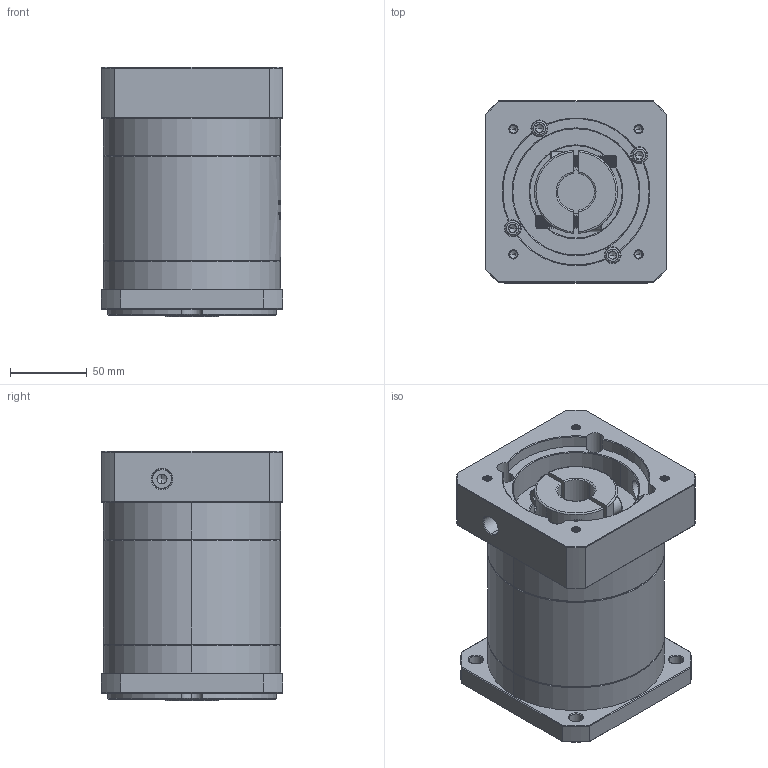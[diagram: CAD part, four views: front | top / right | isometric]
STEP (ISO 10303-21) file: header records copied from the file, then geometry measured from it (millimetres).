
FILE_DESCRIPTION (( 'STEP AP214' ), '1' );
FILE_NAME ('ZF120A-K25-L2-24-95-115-M6.step', '2023-03-07T09:38:33', ( '' ), ( '' ), 'SwSTEP 2.0', 'SolidWorks 2016', '' );
FILE_SCHEMA (( 'AUTOMOTIVE_DESIGN' ));
Length unit declared in the file: millimetre
Products named in the file (1): ZF120A-K25-L2-24-95-115-M6
Bounding box: 118 x 118 x 162 mm (x, y, z)
Volume: 1613599.1 mm3; surface area: 165511.8 mm2
Topology: 6 solids, 6 shells, 1906 faces, 5014 edges, 3202 vertices
Faces by surface type: plane 850, cylinder 388, cone 336, bspline 332
Entity records: 101590 total; most frequent: CARTESIAN_POINT 37130, ORIENTED_EDGE 9972, DIRECTION 7788, EDGE_CURVE 4986, VERTEX_POINT 3202, LINE 2700, VECTOR 2700, AXIS2_PLACEMENT_3D 2544
